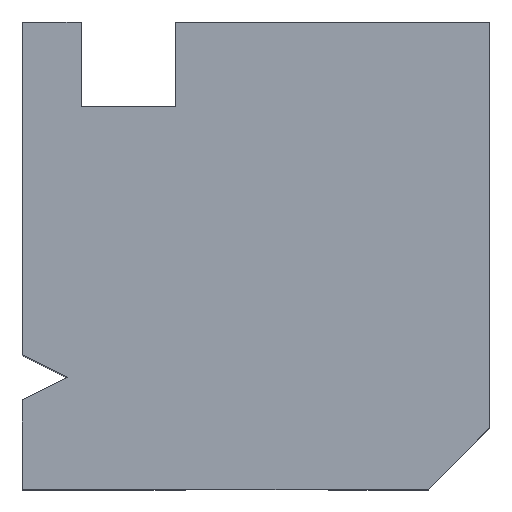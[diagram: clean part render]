
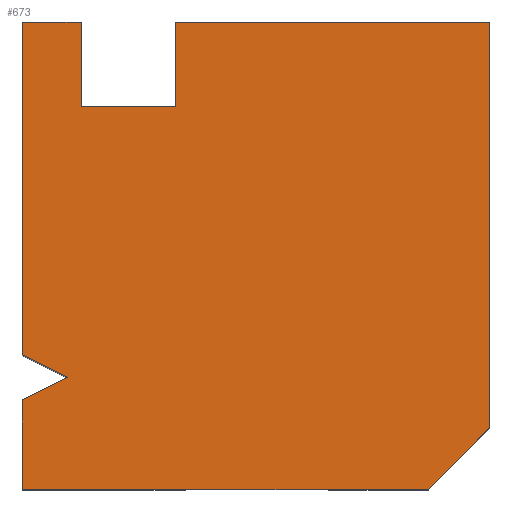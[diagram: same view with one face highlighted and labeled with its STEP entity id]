
A CAD part, top view. The second image highlights one B-rep face of the part: STEP entity #673.
In plain terms, the highlighted planar face has unit normal (0, 0, 1).
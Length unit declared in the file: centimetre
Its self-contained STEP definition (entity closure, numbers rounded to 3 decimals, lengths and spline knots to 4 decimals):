
#51 = VERTEX_POINT ( 'NONE', #291 ) ;
#54 = ORIENTED_EDGE ( 'NONE', *, *, #298, .F. ) ;
#65 = LINE ( 'NONE', #218, #185 ) ;
#66 = VERTEX_POINT ( 'NONE', #1026 ) ;
#75 = EDGE_CURVE ( 'NONE', #66, #1024, #122, .T. ) ;
#79 = CARTESIAN_POINT ( 'NONE',  ( 0., 191.0201, 1000. ) ) ;
#104 = VERTEX_POINT ( 'NONE', #746 ) ;
#119 = EDGE_CURVE ( 'NONE', #823, #51, #563, .T. ) ;
#122 = LINE ( 'NONE', #569, #1036 ) ;
#123 = VERTEX_POINT ( 'NONE', #311 ) ;
#125 = EDGE_CURVE ( 'NONE', #710, #66, #920, .T. ) ;
#129 = VECTOR ( 'NONE', #913, 100. ) ;
#136 = DIRECTION ( 'NONE',  ( 0., -1., 0. ) ) ;
#143 = LINE ( 'NONE', #693, #648 ) ;
#160 = LINE ( 'NONE', #517, #539 ) ;
#171 = LINE ( 'NONE', #970, #631 ) ;
#178 = ORIENTED_EDGE ( 'NONE', *, *, #824, .F. ) ;
#185 = VECTOR ( 'NONE', #741, 100. ) ;
#191 = EDGE_CURVE ( 'NONE', #1008, #976, #160, .T. ) ;
#204 = CARTESIAN_POINT ( 'NONE',  ( 0., 1000., 1000. ) ) ;
#208 = DIRECTION ( 'NONE',  ( -0.897, 0.443, 0. ) ) ;
#214 = LINE ( 'NONE', #308, #554 ) ;
#218 = CARTESIAN_POINT ( 'NONE',  ( 0., 0., 1000. ) ) ;
#225 = VECTOR ( 'NONE', #208, 100. ) ;
#226 = ORIENTED_EDGE ( 'NONE', *, *, #747, .T. ) ;
#227 = ORIENTED_EDGE ( 'NONE', *, *, #446, .T. ) ;
#230 = CARTESIAN_POINT ( 'NONE',  ( 327.5123, 819.1572, 1000. ) ) ;
#258 = AXIS2_PLACEMENT_3D ( 'NONE', #584, #968, #345 ) ;
#259 = LINE ( 'NONE', #789, #981 ) ;
#291 = CARTESIAN_POINT ( 'NONE',  ( 0., 287.2375, 1000. ) ) ;
#298 = EDGE_CURVE ( 'NONE', #1008, #104, #259, .T. ) ;
#308 = CARTESIAN_POINT ( 'NONE',  ( 0., 1000., 1000. ) ) ;
#311 = CARTESIAN_POINT ( 'NONE',  ( 868.93, 0., 1000. ) ) ;
#327 = DIRECTION ( 'NONE',  ( 0., 1., 0. ) ) ;
#334 = VERTEX_POINT ( 'NONE', #893 ) ;
#345 = DIRECTION ( 'NONE',  ( 1., 0., 0. ) ) ;
#377 = ORIENTED_EDGE ( 'NONE', *, *, #621, .T. ) ;
#383 = CARTESIAN_POINT ( 'NONE',  ( 125.8266, 819.1572, 1000. ) ) ;
#398 = LINE ( 'NONE', #383, #1073 ) ;
#412 = ORIENTED_EDGE ( 'NONE', *, *, #939, .T. ) ;
#417 = DIRECTION ( 'NONE',  ( -1., 0., 0. ) ) ;
#433 = PLANE ( 'NONE',  #258 ) ;
#435 = CARTESIAN_POINT ( 'NONE',  ( 1000., 131.07, 1000. ) ) ;
#440 = DIRECTION ( 'NONE',  ( -1., 0., 0. ) ) ;
#446 = EDGE_CURVE ( 'NONE', #1024, #587, #398, .T. ) ;
#448 = CARTESIAN_POINT ( 'NONE',  ( 0., 0., 1000. ) ) ;
#496 = ORIENTED_EDGE ( 'NONE', *, *, #540, .T. ) ;
#501 = FACE_OUTER_BOUND ( 'NONE', #1063, .T. ) ;
#508 = LINE ( 'NONE', #953, #225 ) ;
#517 = CARTESIAN_POINT ( 'NONE',  ( 0., 1000., 1000. ) ) ;
#537 = ORIENTED_EDGE ( 'NONE', *, *, #119, .T. ) ;
#539 = VECTOR ( 'NONE', #1048, 100. ) ;
#540 = EDGE_CURVE ( 'NONE', #123, #858, #1017, .T. ) ;
#546 = CARTESIAN_POINT ( 'NONE',  ( 125.8266, 819.1572, 1000. ) ) ;
#554 = VECTOR ( 'NONE', #417, 100. ) ;
#559 = CARTESIAN_POINT ( 'NONE',  ( 327.5123, 1000., 1000. ) ) ;
#561 = CARTESIAN_POINT ( 'NONE',  ( 434.465, -434.465, 1000. ) ) ;
#563 = LINE ( 'NONE', #204, #129 ) ;
#569 = CARTESIAN_POINT ( 'NONE',  ( 125.8266, 819.1572, 1000. ) ) ;
#584 = CARTESIAN_POINT ( 'NONE',  ( 0., 0., 1000. ) ) ;
#587 = VERTEX_POINT ( 'NONE', #763 ) ;
#621 = EDGE_CURVE ( 'NONE', #858, #334, #143, .T. ) ;
#631 = VECTOR ( 'NONE', #440, 100. ) ;
#648 = VECTOR ( 'NONE', #327, 100. ) ;
#667 = VECTOR ( 'NONE', #136, 100. ) ;
#673 = ADVANCED_FACE ( 'NONE', ( #501 ), #433, .T. ) ;
#693 = CARTESIAN_POINT ( 'NONE',  ( 1000., 1000., 1000. ) ) ;
#710 = VERTEX_POINT ( 'NONE', #559 ) ;
#721 = ORIENTED_EDGE ( 'NONE', *, *, #125, .T. ) ;
#741 = DIRECTION ( 'NONE',  ( 1., 0., 0. ) ) ;
#746 = CARTESIAN_POINT ( 'NONE',  ( 97.449, 239.1288, 1000. ) ) ;
#747 = EDGE_CURVE ( 'NONE', #587, #823, #214, .T. ) ;
#760 = EDGE_CURVE ( 'NONE', #976, #123, #65, .T. ) ;
#763 = CARTESIAN_POINT ( 'NONE',  ( 125.8266, 1000., 1000. ) ) ;
#789 = CARTESIAN_POINT ( 'NONE',  ( 0., 191.0201, 1000. ) ) ;
#823 = VERTEX_POINT ( 'NONE', #1009 ) ;
#824 = EDGE_CURVE ( 'NONE', #104, #51, #508, .T. ) ;
#847 = DIRECTION ( 'NONE',  ( -1., 0., 0. ) ) ;
#858 = VERTEX_POINT ( 'NONE', #435 ) ;
#875 = ORIENTED_EDGE ( 'NONE', *, *, #191, .T. ) ;
#887 = VECTOR ( 'NONE', #918, 100. ) ;
#893 = CARTESIAN_POINT ( 'NONE',  ( 1000., 1000., 1000. ) ) ;
#906 = ORIENTED_EDGE ( 'NONE', *, *, #760, .T. ) ;
#913 = DIRECTION ( 'NONE',  ( 0., -1., 0. ) ) ;
#918 = DIRECTION ( 'NONE',  ( 0.707, 0.707, 0. ) ) ;
#920 = LINE ( 'NONE', #230, #667 ) ;
#939 = EDGE_CURVE ( 'NONE', #334, #710, #171, .T. ) ;
#953 = CARTESIAN_POINT ( 'NONE',  ( 97.449, 239.1288, 1000. ) ) ;
#968 = DIRECTION ( 'NONE',  ( 0., 0., 1. ) ) ;
#970 = CARTESIAN_POINT ( 'NONE',  ( 0., 1000., 1000. ) ) ;
#974 = DIRECTION ( 'NONE',  ( 0.897, 0.443, 0. ) ) ;
#976 = VERTEX_POINT ( 'NONE', #448 ) ;
#981 = VECTOR ( 'NONE', #974, 100. ) ;
#986 = ORIENTED_EDGE ( 'NONE', *, *, #75, .T. ) ;
#1004 = DIRECTION ( 'NONE',  ( 0., 1., 0. ) ) ;
#1008 = VERTEX_POINT ( 'NONE', #79 ) ;
#1009 = CARTESIAN_POINT ( 'NONE',  ( 0., 1000., 1000. ) ) ;
#1017 = LINE ( 'NONE', #561, #887 ) ;
#1024 = VERTEX_POINT ( 'NONE', #546 ) ;
#1026 = CARTESIAN_POINT ( 'NONE',  ( 327.5123, 819.1572, 1000. ) ) ;
#1036 = VECTOR ( 'NONE', #847, 100. ) ;
#1048 = DIRECTION ( 'NONE',  ( 0., -1., 0. ) ) ;
#1063 = EDGE_LOOP ( 'NONE', ( #178, #54, #875, #906, #496, #377, #412, #721, #986, #227, #226, #537 ) ) ;
#1073 = VECTOR ( 'NONE', #1004, 100. ) ;
